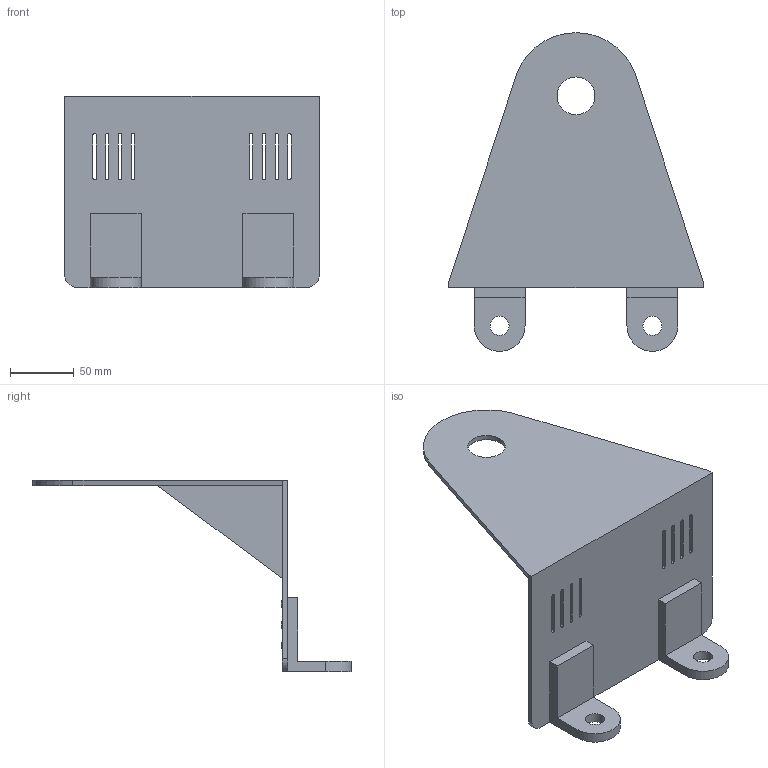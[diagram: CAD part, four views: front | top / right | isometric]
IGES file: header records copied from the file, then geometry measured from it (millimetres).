
Start section: DesignModeler IGES Output Version 5.3
Global section: file name: 2D MODEL.igs; native system: By Siemens PLM Incorporated; preprocessor: XPlus GENERIC/IGES 17.0.49; author: ASHOK; organization:  ; date: 20170401.155001; units: metre
Bounding box: 200 x 250 x 150 mm (x, y, z)
Volume: 291715.2 mm3; surface area: 144024.1 mm2
Topology: 4 solids, 4 shells, 94 faces, 253 edges, 170 vertices
Faces by surface type: bspline 59, revolution 35
